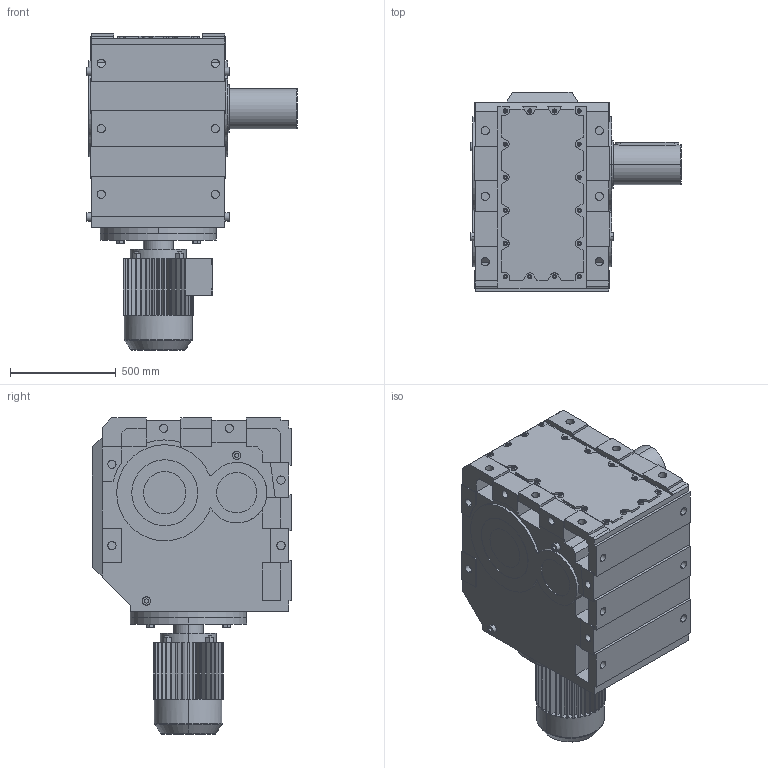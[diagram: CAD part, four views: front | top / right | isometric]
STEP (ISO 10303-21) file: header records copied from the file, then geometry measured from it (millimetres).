
FILE_DESCRIPTION(('Open CASCADE Model'),'2;1');
FILE_NAME('Open CASCADE Shape Model','2021-07-20T12:29:07',('Author'),( 'Open CASCADE'),'Open CASCADE STEP processor 6.3','Open CASCADE 6.3' ,'Unknown');
FILE_SCHEMA(('AUTOMOTIVE_DESIGN_CC2 { 1 2 10303 214 -1 1 5 4 }'));
Length unit declared in the file: millimetre
Products named in the file (4): 1_K187DV180-A; K167‵187_187.step; 萇儂_550-DV180-552-708-331-258.step; す瑩妗陑粣K_187.step
Assembly tree (3 placements, depth 2):
  1_K187DV180-A
    K167‵187_187.step
    萇儂_550-DV180-552-708-331-258.step
    す瑩妗陑粣K_187.step
Bounding box: 994 x 942 x 1498 mm (x, y, z)
Volume: 554889552.4 mm3; surface area: 7735978.5 mm2
Topology: 3 solids, 3 shells, 914 faces, 2364 edges, 1539 vertices
Faces by surface type: plane 613, cylinder 289, cone 8, torus 4
Entity records: 59394 total; most frequent: CARTESIAN_POINT 14070, DIRECTION 7913, ORIENTED_EDGE 4724, PCURVE 4724, DEFINITIONAL_REPRESENTATION 4724, LINE 4234, VECTOR 4234, EDGE_CURVE 2362
